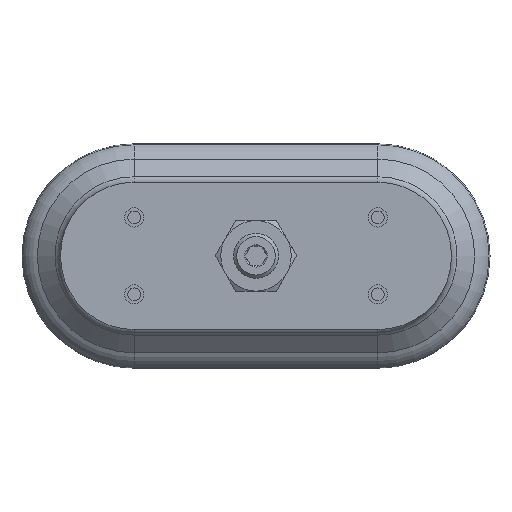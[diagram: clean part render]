
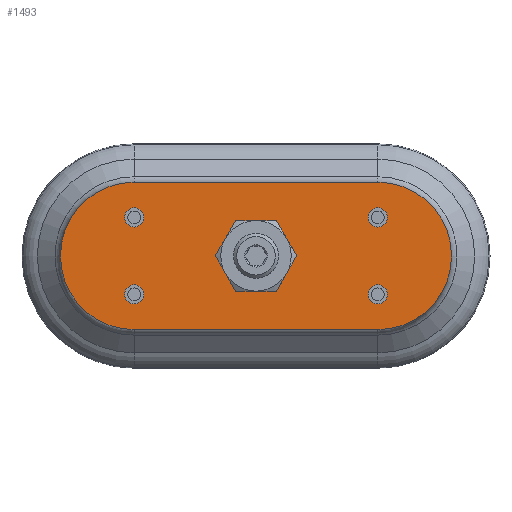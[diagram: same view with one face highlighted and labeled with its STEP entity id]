
A CAD part, top view. The second image highlights one B-rep face of the part: STEP entity #1493.
In plain terms, the highlighted planar face has unit normal (0, 0, 1).
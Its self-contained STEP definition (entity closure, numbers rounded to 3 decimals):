
#31=FACE_BOUND('',#322,.T.);
#32=FACE_BOUND('',#323,.T.);
#33=FACE_BOUND('',#324,.T.);
#34=FACE_BOUND('',#325,.T.);
#35=FACE_BOUND('',#326,.T.);
#66=PLANE('',#1691);
#215=FACE_OUTER_BOUND('',#321,.T.);
#321=EDGE_LOOP('',(#1192,#1193,#1194,#1195));
#322=EDGE_LOOP('',(#1196));
#323=EDGE_LOOP('',(#1197));
#324=EDGE_LOOP('',(#1198));
#325=EDGE_LOOP('',(#1199));
#326=EDGE_LOOP('',(#1200));
#408=LINE('',#2521,#477);
#411=LINE('',#2526,#480);
#477=VECTOR('',#2093,10.);
#480=VECTOR('',#2098,10.);
#488=CIRCLE('',#1536,11.);
#526=CIRCLE('',#1612,3.);
#527=CIRCLE('',#1614,3.);
#528=CIRCLE('',#1616,3.);
#529=CIRCLE('',#1618,3.);
#564=CIRCLE('',#1674,23.);
#565=CIRCLE('',#1690,23.);
#579=VERTEX_POINT('',#2179);
#631=VERTEX_POINT('',#2374);
#632=VERTEX_POINT('',#2378);
#633=VERTEX_POINT('',#2382);
#634=VERTEX_POINT('',#2386);
#665=VERTEX_POINT('',#2492);
#666=VERTEX_POINT('',#2494);
#667=VERTEX_POINT('',#2520);
#668=VERTEX_POINT('',#2524);
#695=EDGE_CURVE('',#579,#579,#488,.T.);
#771=EDGE_CURVE('',#631,#631,#526,.T.);
#773=EDGE_CURVE('',#632,#632,#527,.T.);
#775=EDGE_CURVE('',#633,#633,#528,.T.);
#777=EDGE_CURVE('',#634,#634,#529,.T.);
#832=EDGE_CURVE('',#665,#666,#564,.T.);
#844=EDGE_CURVE('',#666,#667,#408,.T.);
#847=EDGE_CURVE('',#668,#665,#411,.T.);
#848=EDGE_CURVE('',#667,#668,#565,.T.);
#1192=ORIENTED_EDGE('',*,*,#832,.F.);
#1193=ORIENTED_EDGE('',*,*,#847,.F.);
#1194=ORIENTED_EDGE('',*,*,#848,.F.);
#1195=ORIENTED_EDGE('',*,*,#844,.F.);
#1196=ORIENTED_EDGE('',*,*,#695,.T.);
#1197=ORIENTED_EDGE('',*,*,#771,.T.);
#1198=ORIENTED_EDGE('',*,*,#773,.T.);
#1199=ORIENTED_EDGE('',*,*,#775,.T.);
#1200=ORIENTED_EDGE('',*,*,#777,.T.);
#1493=ADVANCED_FACE('',(#215,#31,#32,#33,#34,#35),#66,.T.);
#1536=AXIS2_PLACEMENT_3D('',#2181,#1731,#1732);
#1612=AXIS2_PLACEMENT_3D('',#2375,#1907,#1908);
#1614=AXIS2_PLACEMENT_3D('',#2379,#1912,#1913);
#1616=AXIS2_PLACEMENT_3D('',#2383,#1917,#1918);
#1618=AXIS2_PLACEMENT_3D('',#2387,#1922,#1923);
#1674=AXIS2_PLACEMENT_3D('',#2495,#2054,#2055);
#1690=AXIS2_PLACEMENT_3D('',#2528,#2101,#2102);
#1691=AXIS2_PLACEMENT_3D('',#2529,#2103,#2104);
#1731=DIRECTION('center_axis',(0.,0.,-1.));
#1732=DIRECTION('ref_axis',(-1.,0.,0.));
#1907=DIRECTION('center_axis',(0.,0.,-1.));
#1908=DIRECTION('ref_axis',(-1.,0.,0.));
#1912=DIRECTION('center_axis',(0.,0.,-1.));
#1913=DIRECTION('ref_axis',(-1.,0.,0.));
#1917=DIRECTION('center_axis',(0.,0.,-1.));
#1918=DIRECTION('ref_axis',(-1.,0.,0.));
#1922=DIRECTION('center_axis',(0.,0.,-1.));
#1923=DIRECTION('ref_axis',(-1.,0.,0.));
#2054=DIRECTION('center_axis',(0.,0.,-1.));
#2055=DIRECTION('ref_axis',(0.,-1.,0.));
#2093=DIRECTION('',(-1.,0.,0.));
#2098=DIRECTION('',(1.,0.,0.));
#2101=DIRECTION('center_axis',(0.,0.,-1.));
#2102=DIRECTION('ref_axis',(0.,1.,0.));
#2103=DIRECTION('center_axis',(0.,0.,1.));
#2104=DIRECTION('ref_axis',(1.,0.,0.));
#2179=CARTESIAN_POINT('',(11.,0.,9.));
#2181=CARTESIAN_POINT('Origin',(0.,0.,9.));
#2374=CARTESIAN_POINT('',(41.,-12.,9.));
#2375=CARTESIAN_POINT('Origin',(38.,-12.,9.));
#2378=CARTESIAN_POINT('',(41.,12.,9.));
#2379=CARTESIAN_POINT('Origin',(38.,12.,9.));
#2382=CARTESIAN_POINT('',(-35.,-12.,9.));
#2383=CARTESIAN_POINT('Origin',(-38.,-12.,9.));
#2386=CARTESIAN_POINT('',(-35.,12.,9.));
#2387=CARTESIAN_POINT('Origin',(-38.,12.,9.));
#2492=CARTESIAN_POINT('',(38.,23.,9.));
#2494=CARTESIAN_POINT('',(38.,-23.,9.));
#2495=CARTESIAN_POINT('Origin',(38.,0.,9.));
#2520=CARTESIAN_POINT('',(-38.,-23.,9.));
#2521=CARTESIAN_POINT('',(-38.,-23.,9.));
#2524=CARTESIAN_POINT('',(-38.,23.,9.));
#2526=CARTESIAN_POINT('',(38.,23.,9.));
#2528=CARTESIAN_POINT('Origin',(-38.,0.,9.));
#2529=CARTESIAN_POINT('Origin',(46.066,0.,9.));
